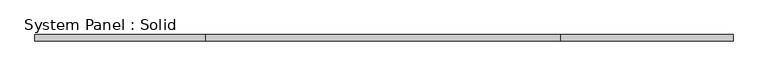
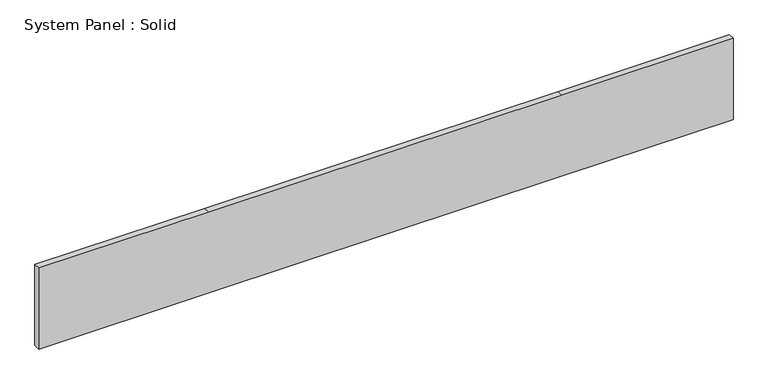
"""IFC4 building model written with IfcOpenShell, lengths in millimetres: plate geometry, System Panel : Solid."""

from ifc_helpers import new_model, si_unit, frame, origin, place, context, project, spatial, polyline, outline, extrude, source, transform, mapped, element, save


def system_panel_solid_6db23722(model_context):
    return source(origin(), model_context, "Body", "SweptSolid", [
        extrude(outline(polyline([(0.0, -3343.5), (0.0, -1706.5), (0.0, 1693.5), (0.0, 3343.5), (825.0, 3343.5), (825.0, 1693.5), (825.0, -1706.5), (825.0, -3343.5), (0.0, -3343.5)])), frame((0.0, -10.5, 0.0), z_axis=(0.0, 1.0, 0.0), x_axis=(0.0, 0.0, 1.0)), (0.0, 0.0, 1.0), 60.0),
    ])


if __name__ == "__main__":
    model = new_model("IFC4")
    model_context = context("Model", 3, world=origin())
    ifc_project = project(units=[si_unit("LENGTHUNIT", "METRE", prefix="MILLI")], contexts=[model_context])
    site = spatial("IfcSite", under=ifc_project)
    building = spatial("IfcBuilding", under=site)
    placement = place(None, origin())
    system_panel_solid_shape = system_panel_solid_6db23722(model_context)
    element("IfcPlate", 1, ObjectType="System Panel : Solid", at=placement, inside=building, context=model_context, shape_type="MappedRepresentation", body=[
        mapped(system_panel_solid_shape, transform((0.0, 0.0, 0.0), x_axis=(1.0, 0.0, 0.0), y_axis=(0.0, 1.0, 0.0), z_axis=(0.0, 0.0, 1.0))),
    ])
    save(model, "model.ifc")
